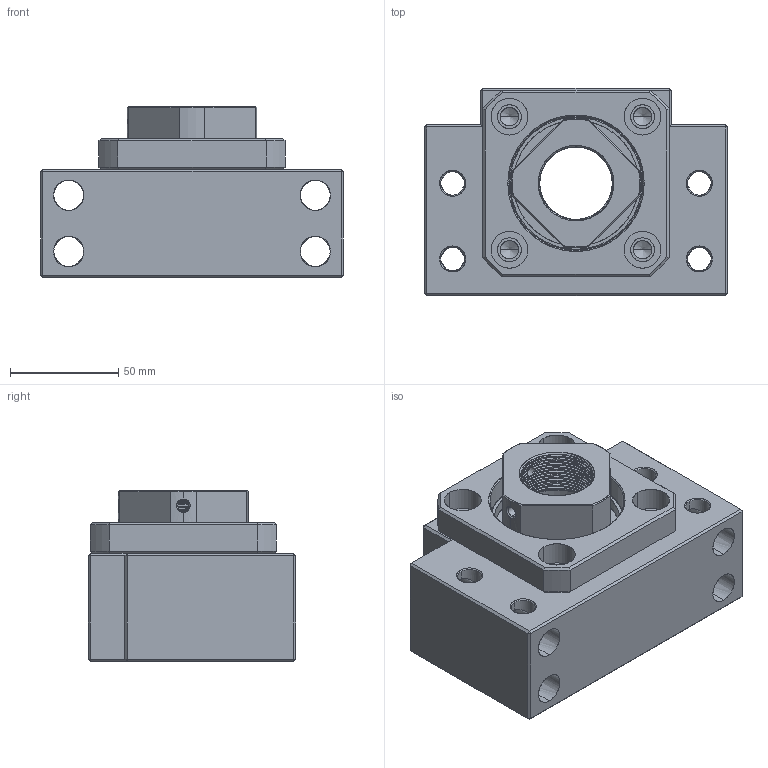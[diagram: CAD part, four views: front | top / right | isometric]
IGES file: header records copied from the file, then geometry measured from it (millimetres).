
Start section: SolidWorks IGES file using analytic representation for surfaces
Global section: file name: Z:\Accessories\_GC_!!!\SYK\Support unit\BK\BK35.IGS; native system: SolidWorks 2015; preprocessor: SolidWorks 2015; author: User; date: 170504.144754; units: millimetre
Bounding box: 140 x 96 x 79 mm (x, y, z)
Surface area: 159260.1 mm2 (no closed solid volume)
Topology: 0 solids, 0 shells, 503 faces, 8949 edges, 8829 vertices
Faces by surface type: bspline 265, revolution 238
